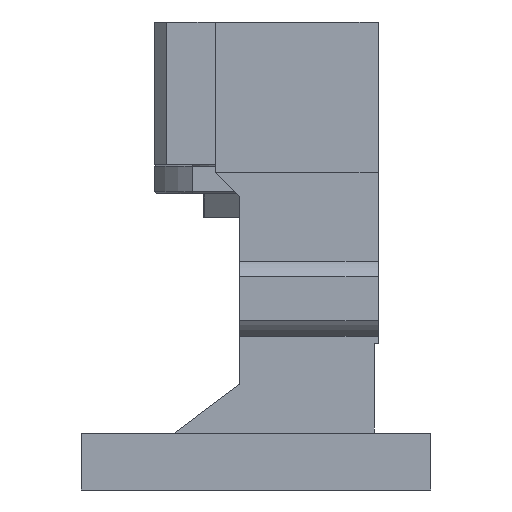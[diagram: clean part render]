
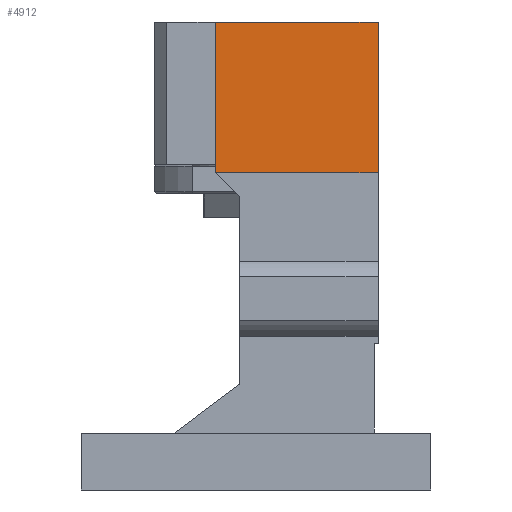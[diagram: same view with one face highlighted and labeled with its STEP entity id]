
A CAD part, left-side view. The second image highlights one B-rep face of the part: STEP entity #4912.
In plain terms, the highlighted planar face has unit normal (-1, 0, 0).
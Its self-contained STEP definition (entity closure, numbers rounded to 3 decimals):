
#146 = EDGE_CURVE ( 'NONE', #5196, #1973, #5778, .T. ) ;
#150 = CARTESIAN_POINT ( 'NONE',  ( -44., 10., 6. ) ) ;
#257 = VECTOR ( 'NONE', #5136, 1000. ) ;
#799 = EDGE_CURVE ( 'NONE', #5042, #5196, #4965, .T. ) ;
#1008 = DIRECTION ( 'NONE',  ( 0., 0., 1. ) ) ;
#1268 = DIRECTION ( 'NONE',  ( 0., -1., 0. ) ) ;
#1307 = PLANE ( 'NONE',  #1561 ) ;
#1347 = DIRECTION ( 'NONE',  ( 0., 0., 1. ) ) ;
#1561 = AXIS2_PLACEMENT_3D ( 'NONE', #5040, #5690, #1008 ) ;
#1973 = VERTEX_POINT ( 'NONE', #4010 ) ;
#2287 = EDGE_LOOP ( 'NONE', ( #6122, #5558, #8005, #6895 ) ) ;
#2887 = DIRECTION ( 'NONE',  ( 0., 0., 1. ) ) ;
#3205 = CARTESIAN_POINT ( 'NONE',  ( -44., 10., 6. ) ) ;
#3294 = VERTEX_POINT ( 'NONE', #3205 ) ;
#3499 = VECTOR ( 'NONE', #1268, 1000. ) ;
#3650 = CARTESIAN_POINT ( 'NONE',  ( -44., -30., -31. ) ) ;
#4010 = CARTESIAN_POINT ( 'NONE',  ( -44., -30., 6. ) ) ;
#4102 = VECTOR ( 'NONE', #2887, 1000. ) ;
#4167 = CARTESIAN_POINT ( 'NONE',  ( -44., 10., -31. ) ) ;
#4293 = LINE ( 'NONE', #4167, #4102 ) ;
#4305 = VECTOR ( 'NONE', #1347, 1000. ) ;
#4383 = CARTESIAN_POINT ( 'NONE',  ( -44., 10., -31. ) ) ;
#4436 = EDGE_CURVE ( 'NONE', #3294, #1973, #6899, .T. ) ;
#4892 = FACE_OUTER_BOUND ( 'NONE', #2287, .T. ) ;
#4912 = ADVANCED_FACE ( 'NONE', ( #4892 ), #1307, .T. ) ;
#4965 = LINE ( 'NONE', #4383, #3499 ) ;
#5040 = CARTESIAN_POINT ( 'NONE',  ( -44., 10., -31. ) ) ;
#5042 = VERTEX_POINT ( 'NONE', #6519 ) ;
#5083 = CARTESIAN_POINT ( 'NONE',  ( -44., -30., -31. ) ) ;
#5136 = DIRECTION ( 'NONE',  ( 0., -1., 0. ) ) ;
#5196 = VERTEX_POINT ( 'NONE', #3650 ) ;
#5558 = ORIENTED_EDGE ( 'NONE', *, *, #4436, .F. ) ;
#5690 = DIRECTION ( 'NONE',  ( -1., 0., 0. ) ) ;
#5778 = LINE ( 'NONE', #5083, #4305 ) ;
#6122 = ORIENTED_EDGE ( 'NONE', *, *, #146, .T. ) ;
#6497 = EDGE_CURVE ( 'NONE', #5042, #3294, #4293, .T. ) ;
#6519 = CARTESIAN_POINT ( 'NONE',  ( -44., 10., -31. ) ) ;
#6895 = ORIENTED_EDGE ( 'NONE', *, *, #799, .T. ) ;
#6899 = LINE ( 'NONE', #150, #257 ) ;
#8005 = ORIENTED_EDGE ( 'NONE', *, *, #6497, .F. ) ;
